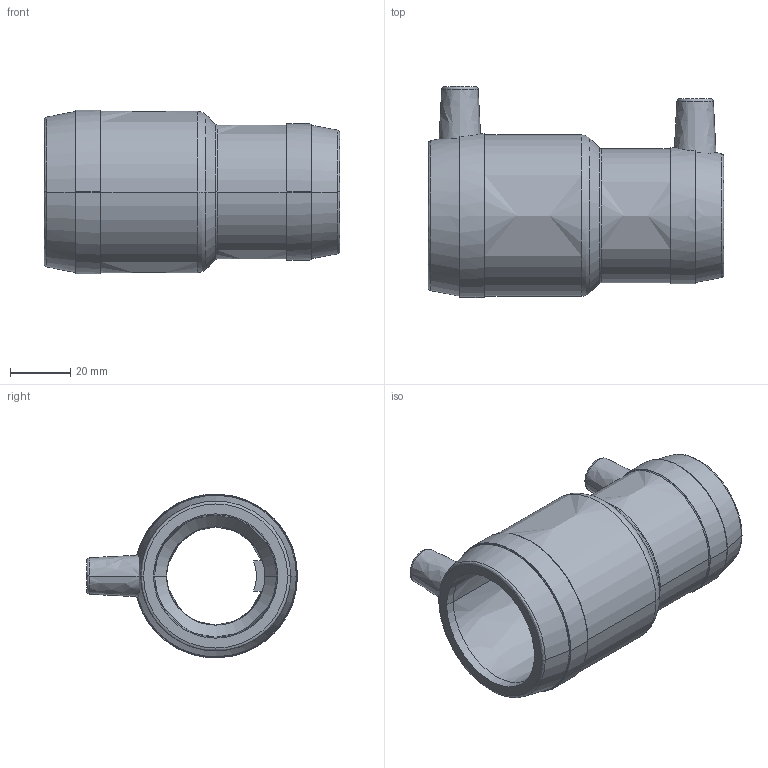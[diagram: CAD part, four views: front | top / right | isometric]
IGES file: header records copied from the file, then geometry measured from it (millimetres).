
Start section:  PTC IGES file: mr_d040-032_01.igs
Global section: file name: mr_d040-032_01.igs; native system: Pro/ENGINEER by Parametric Technology Corporation; preprocessor: 2011490; author: mtunjic; organization: Unknown; date: 20130816.154358; units: millimetre
Bounding box: 98 x 69.97 x 54.3 mm (x, y, z)
Surface area: 29526 mm2 (no closed solid volume)
Topology: 0 solids, 0 shells, 184 faces, 926 edges, 926 vertices
Faces by surface type: bspline 184
